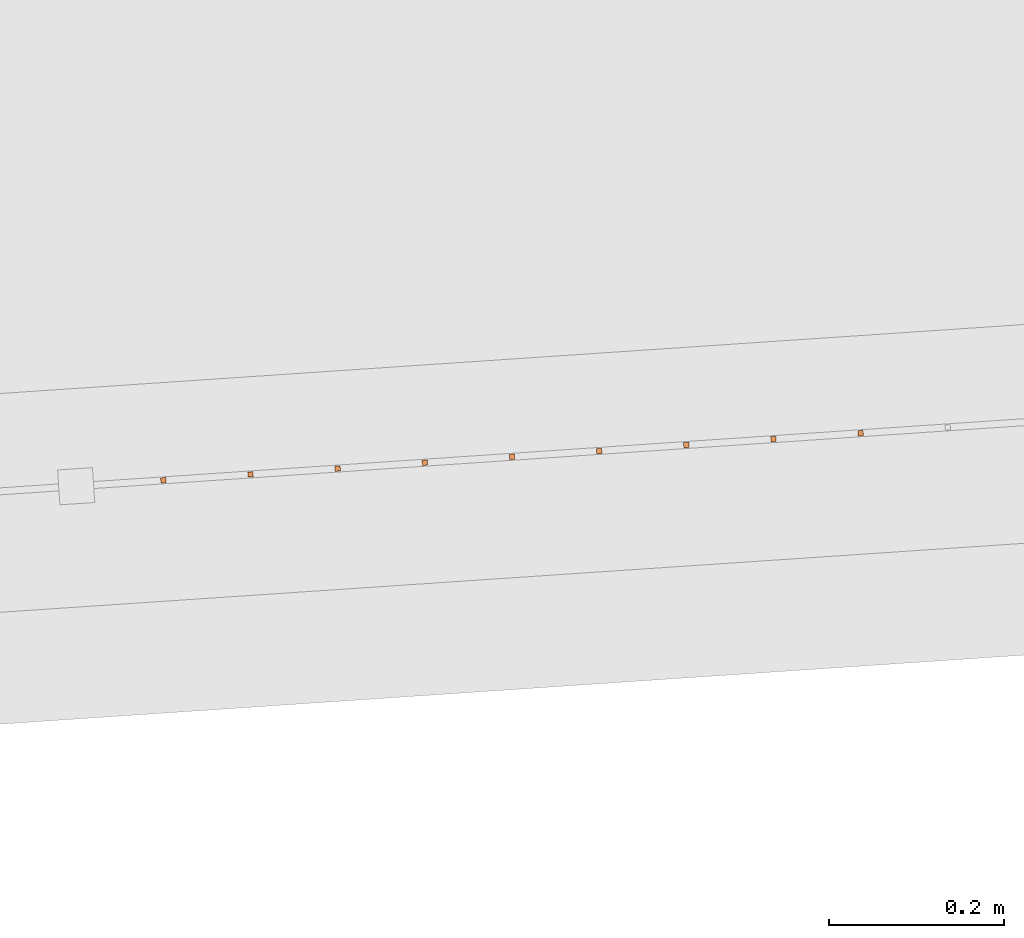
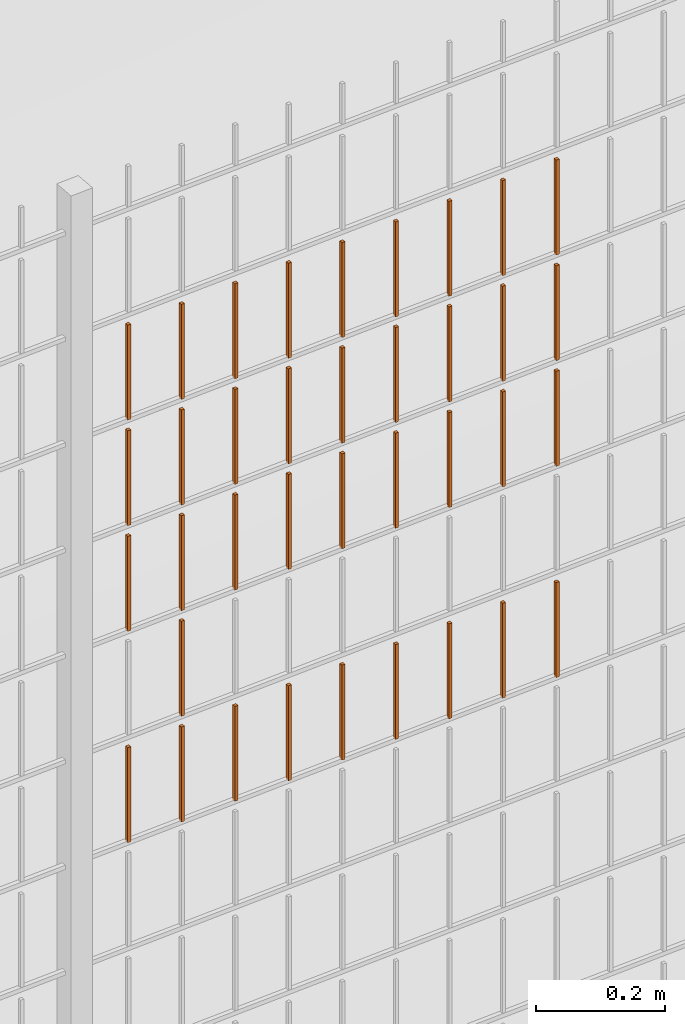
# One storey, part 182 of 1809: 37 proxies, 1 element without a shape of its own.
"""IFC2X3 building model written with IfcOpenShell, lengths in millimetres."""

from ifc_helpers import new_model, entity, si_unit, converted_unit, derived_unit, money_unit, direction, frame, origin_with_axes, place, context, subcontext, project, spatial, faceted_brep, source, transform, mapped, material, type_object, element, aggregate, save


model = new_model("IFC2X3")

# Units and contexts
model_context = context("Model", 3, precision=0.01, world=origin_with_axes(), true_north=direction((0.0, 1.0)))
body_context = subcontext(model_context, "Body", "Model", "MODEL_VIEW")
ifc_project = project(units=[si_unit("LENGTHUNIT", "METRE", prefix="MILLI"), si_unit("AREAUNIT", "SQUARE_METRE"), si_unit("VOLUMEUNIT", "CUBIC_METRE"), converted_unit("PLANEANGLEUNIT", "DEGREE", entity("IfcPlaneAngleMeasure", 0.0174532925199), si_unit("PLANEANGLEUNIT", "RADIAN"), dimensions=[0, 0, 0, 0, 0, 0, 0]), si_unit("SOLIDANGLEUNIT", "STERADIAN"), money_unit("EUR"), converted_unit("TIMEUNIT", "Year", entity("IfcTimeMeasure", 31556926.0), si_unit("TIMEUNIT", "SECOND"), dimensions=[0, 0, 1, 0, 0, 0, 0]), si_unit("MASSUNIT", "GRAM", prefix="KILO"), si_unit("THERMODYNAMICTEMPERATUREUNIT", "DEGREE_CELSIUS"), si_unit("LUMINOUSINTENSITYUNIT", "LUMEN"), si_unit("ENERGYUNIT", "JOULE", prefix="MEGA"), derived_unit("THERMALCONDUCTANCEUNIT", [(si_unit("POWERUNIT", "WATT"), 1), (si_unit("LENGTHUNIT", "METRE"), -1), (si_unit("THERMODYNAMICTEMPERATUREUNIT", "KELVIN"), -1)]), derived_unit("SPECIFICHEATCAPACITYUNIT", [(si_unit("ENERGYUNIT", "JOULE"), 1), (si_unit("MASSUNIT", "GRAM", prefix="KILO"), -1), (si_unit("THERMODYNAMICTEMPERATUREUNIT", "KELVIN"), -1)]), derived_unit("MASSDENSITYUNIT", [(si_unit("MASSUNIT", "GRAM", prefix="KILO"), 1), (si_unit("VOLUMEUNIT", "CUBIC_METRE"), -1)])], contexts=[model_context])

# Site, building, storey
site_placement = place(None, origin_with_axes())
site = spatial("IfcSite", under=ifc_project, at=site_placement, Name="Politse- ja Piirivalveameti ning Päästeameti ühishoone", CompositionType="ELEMENT")
building_placement = place(site_placement, origin_with_axes())
building = spatial("IfcBuilding", under=site, at=building_placement, Name="Politse- ja Piirivalveameti ning Päästeameti ühishoone", CompositionType="ELEMENT")
storey_placement = place(building_placement, origin_with_axes())
storey = spatial("IfcBuildingStorey", under=building, at=storey_placement, Name="Esimene korrus", CompositionType="ELEMENT", Elevation=0.0)

# Proxies
building_element_proxy_type_1 = type_object("IfcBuildingElementProxyType", Name="Railing Type", PredefinedType="NOTDEFINED")
proxy_1_placement = place(storey_placement, frame((89252.001212, -29183.4766571, 203.661247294), z_axis=(0.0, 0.0, 1.0), x_axis=(1.0, 0.0, 0.0)))
proxy_1 = element("IfcBuildingElementProxy", 1, at=proxy_1_placement, inside=storey, type_object=building_element_proxy_type_1, Name="PIIRDEAED")
ifc_material = material(Name="ET-03_Raud")
building_element_proxy_type_2 = type_object("IfcBuildingElementProxyType", Name="IfcBuildingElementProxy", PredefinedType="NOTDEFINED")
shared_shape_1 = source(origin_with_axes(), body_context, "Body", "Brep", [
    faceted_brep([(3.0, 3.0, -0.000752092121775), (-3.0, 3.0, -0.000752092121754), (-3.0, 3.0, 179.99926046), (3.0, 3.0, 179.99926046), (3.0, -3.0, 0.000752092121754), (-3.0, -3.0, 0.000752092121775), (-3.0, -3.0, 180.000764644), (3.0, -3.0, 180.000764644)], [[[0, 1, 2, 3]], [[0, 4, 5, 1]], [[1, 5, 6, 2]], [[3, 2, 6, 7]], [[4, 0, 3, 7]], [[5, 4, 7, 6]]]),
])
proxy_2_placement = place(proxy_1_placement, frame((-71962.710125, -22158.5842531, 809.152414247), z_axis=(0.0, 0.0, 1.0), x_axis=(1.0, 0.0, 0.0)))
proxy_2 = element("IfcBuildingElementProxy", 2, at=proxy_2_placement, type_object=building_element_proxy_type_2, material=ifc_material, Name="BALUSTER - 001", context=body_context, shape_type="MappedRepresentation", body=[
    mapped(shared_shape_1, transform((0.0, 0.0, 0.0), x_axis=(-0.0673926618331, 0.997726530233, 0.0), y_axis=(-0.997726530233, -0.0673926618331, 0.0), z_axis=(0.0, 0.0, 1.0))),
])
shared_shape_2 = source(origin_with_axes(), body_context, "Body", "Brep", [
    faceted_brep([(3.0, 3.0, -0.000752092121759), (-3.0, 3.0, -0.000752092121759), (-3.0, 3.0, 179.99926046), (3.0, 3.0, 179.99926046), (3.0, -3.0, 0.000752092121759), (-3.0, -3.0, 0.000752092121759), (-3.0, -3.0, 180.000764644), (3.0, -3.0, 180.000764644)], [[[0, 1, 2, 3]], [[0, 4, 5, 1]], [[1, 5, 6, 2]], [[3, 2, 6, 7]], [[4, 0, 3, 7]], [[5, 4, 7, 6]]]),
])
proxy_3_placement = place(proxy_1_placement, frame((-71364.0742069, -22118.148656, 809.302832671), z_axis=(0.0, 0.0, 1.0), x_axis=(1.0, 0.0, 0.0)))
proxy_3 = element("IfcBuildingElementProxy", 3, at=proxy_3_placement, type_object=building_element_proxy_type_2, material=ifc_material, Name="BALUSTER - 001", context=body_context, shape_type="MappedRepresentation", body=[
    mapped(shared_shape_2, transform((0.0, 0.0, 0.0), x_axis=(-0.0673926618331, 0.997726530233, 0.0), y_axis=(-0.997726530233, -0.0673926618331, 0.0), z_axis=(0.0, 0.0, 1.0))),
])
proxy_4_placement = place(proxy_1_placement, frame((-71463.8468599, -22124.8879222, 1209.27776293), z_axis=(0.0, 0.0, 1.0), x_axis=(1.0, 0.0, 0.0)))
proxy_4 = element("IfcBuildingElementProxy", 4, at=proxy_4_placement, type_object=building_element_proxy_type_2, material=ifc_material, Name="BALUSTER - 001", context=body_context, shape_type="MappedRepresentation", body=[
    mapped(shared_shape_2, transform((0.0, 0.0, 0.0), x_axis=(-0.0673926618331, 0.997726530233, 0.0), y_axis=(-0.997726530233, -0.0673926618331, 0.0), z_axis=(0.0, 0.0, 1.0))),
])
proxy_5_placement = place(proxy_1_placement, frame((-72062.482778, -22165.3235193, 1209.12734451), z_axis=(0.0, 0.0, 1.0), x_axis=(1.0, 0.0, 0.0)))
proxy_5 = element("IfcBuildingElementProxy", 5, at=proxy_5_placement, type_object=building_element_proxy_type_2, material=ifc_material, Name="BALUSTER - 001", context=body_context, shape_type="MappedRepresentation", body=[
    mapped(shared_shape_2, transform((0.0, 0.0, 0.0), x_axis=(-0.0673926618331, 0.997726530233, 0.0), y_axis=(-0.997726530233, -0.0673926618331, 0.0), z_axis=(0.0, 0.0, 1.0))),
])
shared_shape_3 = source(origin_with_axes(), body_context, "Body", "Brep", [
    faceted_brep([(3.0, 3.0, -0.000752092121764), (-3.0, 3.0, -0.000752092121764), (-3.0, 3.0, 179.99926046), (3.0, 3.0, 179.99926046), (3.0, -3.0, 0.000752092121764), (-3.0, -3.0, 0.000752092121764), (-3.0, -3.0, 180.000764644), (3.0, -3.0, 180.000764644)], [[[0, 1, 2, 3]], [[0, 4, 5, 1]], [[1, 5, 6, 2]], [[3, 2, 6, 7]], [[4, 0, 3, 7]], [[5, 4, 7, 6]]]),
])
proxy_6_placement = place(proxy_1_placement, frame((-72062.482778, -22165.3235193, 809.127344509), z_axis=(0.0, 0.0, 1.0), x_axis=(1.0, 0.0, 0.0)))
proxy_6 = element("IfcBuildingElementProxy", 6, at=proxy_6_placement, type_object=building_element_proxy_type_2, material=ifc_material, Name="BALUSTER - 001", context=body_context, shape_type="MappedRepresentation", body=[
    mapped(shared_shape_3, transform((0.0, 0.0, 0.0), x_axis=(-0.0673926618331, 0.997726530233, 0.0), y_axis=(-0.997726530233, -0.0673926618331, 0.0), z_axis=(0.0, 0.0, 1.0))),
])
shared_shape_4 = source(origin_with_axes(), body_context, "Body", "Brep", [
    faceted_brep([(3.0, 3.0, -0.000752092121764), (-3.0, 3.0, -0.000752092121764), (-3.0, 3.0, 179.99926046), (3.0, 3.0, 179.99926046), (3.0, -3.0, 0.000752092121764), (-3.0, -3.0, 0.000752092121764), (-3.0, -3.0, 180.000764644), (3.0, -3.0, 180.000764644)], [[[0, 1, 2, 3]], [[0, 4, 5, 1]], [[1, 5, 6, 2]], [[3, 2, 6, 7]], [[4, 0, 3, 7]], [[5, 4, 7, 6]]]),
])
proxy_7_placement = place(proxy_1_placement, frame((-71563.6195129, -22131.6271883, 1209.2526932), z_axis=(0.0, 0.0, 1.0), x_axis=(1.0, 0.0, 0.0)))
proxy_7 = element("IfcBuildingElementProxy", 7, at=proxy_7_placement, type_object=building_element_proxy_type_2, material=ifc_material, Name="BALUSTER - 001", context=body_context, shape_type="MappedRepresentation", body=[
    mapped(shared_shape_4, transform((0.0, 0.0, 0.0), x_axis=(-0.0673926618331, 0.997726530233, 0.0), y_axis=(-0.997726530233, -0.0673926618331, 0.0), z_axis=(0.0, 0.0, 1.0))),
])
shared_shape_5 = source(origin_with_axes(), body_context, "Body", "Brep", [
    faceted_brep([(3.0, 3.0, -0.000752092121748), (-3.0, 3.0, -0.00075209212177), (-3.0, 3.0, 179.99926046), (3.0, 3.0, 179.99926046), (3.0, -3.0, 0.00075209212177), (-3.0, -3.0, 0.000752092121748), (-3.0, -3.0, 180.000764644), (3.0, -3.0, 180.000764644)], [[[0, 1, 2, 3]], [[0, 4, 5, 1]], [[1, 5, 6, 2]], [[3, 2, 6, 7]], [[4, 0, 3, 7]], [[5, 4, 7, 6]]]),
])
proxy_8_placement = place(proxy_1_placement, frame((-71862.937472, -22151.8449869, 1209.17748398), z_axis=(0.0, 0.0, 1.0), x_axis=(1.0, 0.0, 0.0)))
proxy_8 = element("IfcBuildingElementProxy", 8, at=proxy_8_placement, type_object=building_element_proxy_type_2, material=ifc_material, Name="BALUSTER - 001", context=body_context, shape_type="MappedRepresentation", body=[
    mapped(shared_shape_5, transform((0.0, 0.0, 0.0), x_axis=(-0.0673926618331, 0.997726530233, 0.0), y_axis=(-0.997726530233, -0.0673926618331, 0.0), z_axis=(0.0, 0.0, 1.0))),
])
shared_shape_6 = source(origin_with_axes(), body_context, "Body", "Brep", [
    faceted_brep([(3.0, 3.0, -0.000752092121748), (-3.0, 3.0, -0.00075209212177), (-3.0, 3.0, 179.99926046), (3.0, 3.0, 179.99926046), (3.0, -3.0, 0.00075209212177), (-3.0, -3.0, 0.000752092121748), (-3.0, -3.0, 180.000764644), (3.0, -3.0, 180.000764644)], [[[0, 1, 2, 3]], [[0, 4, 5, 1]], [[1, 5, 6, 2]], [[3, 2, 6, 7]], [[4, 0, 3, 7]], [[5, 4, 7, 6]]]),
])
proxy_9_placement = place(proxy_1_placement, frame((-71264.3015538, -22111.4093898, 1209.32790241), z_axis=(0.0, 0.0, 1.0), x_axis=(1.0, 0.0, 0.0)))
proxy_9 = element("IfcBuildingElementProxy", 9, at=proxy_9_placement, type_object=building_element_proxy_type_2, material=ifc_material, Name="BALUSTER - 001", context=body_context, shape_type="MappedRepresentation", body=[
    mapped(shared_shape_6, transform((0.0, 0.0, 0.0), x_axis=(-0.0673926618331, 0.997726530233, 0.0), y_axis=(-0.997726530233, -0.0673926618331, 0.0), z_axis=(0.0, 0.0, 1.0))),
])
shared_shape_7 = source(origin_with_axes(), body_context, "Body", "Brep", [
    faceted_brep([(3.0, 3.0, -0.000752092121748), (-3.0, 3.0, -0.00075209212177), (-3.0, 3.0, 179.99926046), (3.0, 3.0, 179.99926046), (3.0, -3.0, 0.00075209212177), (-3.0, -3.0, 0.000752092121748), (-3.0, -3.0, 180.000764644), (3.0, -3.0, 180.000764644)], [[[0, 1, 2, 3]], [[0, 4, 5, 1]], [[1, 5, 6, 2]], [[3, 2, 6, 7]], [[4, 0, 3, 7]], [[5, 4, 7, 6]]]),
])
proxy_10_placement = place(proxy_1_placement, frame((-71264.3015538, -22111.4093898, 1409.32790241), z_axis=(0.0, 0.0, 1.0), x_axis=(1.0, 0.0, 0.0)))
proxy_10 = element("IfcBuildingElementProxy", 10, at=proxy_10_placement, type_object=building_element_proxy_type_2, material=ifc_material, Name="BALUSTER - 001", context=body_context, shape_type="MappedRepresentation", body=[
    mapped(shared_shape_7, transform((0.0, 0.0, 0.0), x_axis=(-0.0673926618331, 0.997726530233, 0.0), y_axis=(-0.997726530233, -0.0673926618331, 0.0), z_axis=(0.0, 0.0, 1.0))),
])
proxy_11_placement = place(proxy_1_placement, frame((-71264.3015538, -22111.4093898, 1609.32790241), z_axis=(0.0, 0.0, 1.0), x_axis=(1.0, 0.0, 0.0)))
proxy_11 = element("IfcBuildingElementProxy", 11, at=proxy_11_placement, type_object=building_element_proxy_type_2, material=ifc_material, Name="BALUSTER - 001", context=body_context, shape_type="MappedRepresentation", body=[
    mapped(shared_shape_7, transform((0.0, 0.0, 0.0), x_axis=(-0.0673926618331, 0.997726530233, 0.0), y_axis=(-0.997726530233, -0.0673926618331, 0.0), z_axis=(0.0, 0.0, 1.0))),
])
shared_shape_8 = source(origin_with_axes(), body_context, "Body", "Brep", [
    faceted_brep([(3.0, 3.0, -0.000752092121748), (-3.0, 3.0, -0.00075209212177), (-3.0, 3.0, 179.99926046), (3.0, 3.0, 179.99926046), (3.0, -3.0, 0.00075209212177), (-3.0, -3.0, 0.000752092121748), (-3.0, -3.0, 180.000764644), (3.0, -3.0, 180.000764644)], [[[0, 1, 2, 3]], [[0, 4, 5, 1]], [[1, 5, 6, 2]], [[3, 2, 6, 7]], [[4, 0, 3, 7]], [[5, 4, 7, 6]]]),
])
proxy_12_placement = place(proxy_1_placement, frame((-71862.937472, -22151.8449869, 1409.17748398), z_axis=(0.0, 0.0, 1.0), x_axis=(1.0, 0.0, 0.0)))
proxy_12 = element("IfcBuildingElementProxy", 12, at=proxy_12_placement, type_object=building_element_proxy_type_2, material=ifc_material, Name="BALUSTER - 001", context=body_context, shape_type="MappedRepresentation", body=[
    mapped(shared_shape_8, transform((0.0, 0.0, 0.0), x_axis=(-0.0673926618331, 0.997726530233, 0.0), y_axis=(-0.997726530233, -0.0673926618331, 0.0), z_axis=(0.0, 0.0, 1.0))),
])
proxy_13_placement = place(proxy_1_placement, frame((-71862.937472, -22151.8449869, 1609.17748398), z_axis=(0.0, 0.0, 1.0), x_axis=(1.0, 0.0, 0.0)))
proxy_13 = element("IfcBuildingElementProxy", 13, at=proxy_13_placement, type_object=building_element_proxy_type_2, material=ifc_material, Name="BALUSTER - 001", context=body_context, shape_type="MappedRepresentation", body=[
    mapped(shared_shape_8, transform((0.0, 0.0, 0.0), x_axis=(-0.0673926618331, 0.997726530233, 0.0), y_axis=(-0.997726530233, -0.0673926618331, 0.0), z_axis=(0.0, 0.0, 1.0))),
])
shared_shape_9 = source(origin_with_axes(), body_context, "Body", "Brep", [
    faceted_brep([(3.0, 3.0, -0.000752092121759), (-3.0, 3.0, -0.000752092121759), (-3.0, 3.0, 179.99926046), (3.0, 3.0, 179.99926046), (3.0, -3.0, 0.000752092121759), (-3.0, -3.0, 0.000752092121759), (-3.0, -3.0, 180.000764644), (3.0, -3.0, 180.000764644)], [[[0, 1, 2, 3]], [[0, 4, 5, 1]], [[1, 5, 6, 2]], [[3, 2, 6, 7]], [[4, 0, 3, 7]], [[5, 4, 7, 6]]]),
])
proxy_14_placement = place(proxy_1_placement, frame((-71463.8468599, -22124.8879222, 1409.27776293), z_axis=(0.0, 0.0, 1.0), x_axis=(1.0, 0.0, 0.0)))
proxy_14 = element("IfcBuildingElementProxy", 14, at=proxy_14_placement, type_object=building_element_proxy_type_2, material=ifc_material, Name="BALUSTER - 001", context=body_context, shape_type="MappedRepresentation", body=[
    mapped(shared_shape_9, transform((0.0, 0.0, 0.0), x_axis=(-0.0673926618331, 0.997726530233, 0.0), y_axis=(-0.997726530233, -0.0673926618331, 0.0), z_axis=(0.0, 0.0, 1.0))),
])
proxy_15_placement = place(proxy_1_placement, frame((-72062.482778, -22165.3235193, 1409.12734451), z_axis=(0.0, 0.0, 1.0), x_axis=(1.0, 0.0, 0.0)))
proxy_15 = element("IfcBuildingElementProxy", 15, at=proxy_15_placement, type_object=building_element_proxy_type_2, material=ifc_material, Name="BALUSTER - 001", context=body_context, shape_type="MappedRepresentation", body=[
    mapped(shared_shape_9, transform((0.0, 0.0, 0.0), x_axis=(-0.0673926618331, 0.997726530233, 0.0), y_axis=(-0.997726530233, -0.0673926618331, 0.0), z_axis=(0.0, 0.0, 1.0))),
])
proxy_16_placement = place(proxy_1_placement, frame((-71463.8468599, -22124.8879222, 1609.27776293), z_axis=(0.0, 0.0, 1.0), x_axis=(1.0, 0.0, 0.0)))
proxy_16 = element("IfcBuildingElementProxy", 16, at=proxy_16_placement, type_object=building_element_proxy_type_2, material=ifc_material, Name="BALUSTER - 001", context=body_context, shape_type="MappedRepresentation", body=[
    mapped(shared_shape_9, transform((0.0, 0.0, 0.0), x_axis=(-0.0673926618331, 0.997726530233, 0.0), y_axis=(-0.997726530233, -0.0673926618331, 0.0), z_axis=(0.0, 0.0, 1.0))),
])
proxy_17_placement = place(proxy_1_placement, frame((-72062.482778, -22165.3235193, 1609.12734451), z_axis=(0.0, 0.0, 1.0), x_axis=(1.0, 0.0, 0.0)))
proxy_17 = element("IfcBuildingElementProxy", 17, at=proxy_17_placement, type_object=building_element_proxy_type_2, material=ifc_material, Name="BALUSTER - 001", context=body_context, shape_type="MappedRepresentation", body=[
    mapped(shared_shape_9, transform((0.0, 0.0, 0.0), x_axis=(-0.0673926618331, 0.997726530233, 0.0), y_axis=(-0.997726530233, -0.0673926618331, 0.0), z_axis=(0.0, 0.0, 1.0))),
])
shared_shape_10 = source(origin_with_axes(), body_context, "Body", "Brep", [
    faceted_brep([(3.0, 3.0, -0.000752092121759), (-3.0, 3.0, -0.000752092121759), (-3.0, 3.0, 179.99926046), (3.0, 3.0, 179.99926046), (3.0, -3.0, 0.000752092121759), (-3.0, -3.0, 0.000752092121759), (-3.0, -3.0, 180.000764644), (3.0, -3.0, 180.000764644)], [[[0, 1, 2, 3]], [[0, 4, 5, 1]], [[1, 5, 6, 2]], [[3, 2, 6, 7]], [[4, 0, 3, 7]], [[5, 4, 7, 6]]]),
])
proxy_18_placement = place(proxy_1_placement, frame((-71663.3921659, -22138.3664545, 1209.22762346), z_axis=(0.0, 0.0, 1.0), x_axis=(1.0, 0.0, 0.0)))
proxy_18 = element("IfcBuildingElementProxy", 18, at=proxy_18_placement, type_object=building_element_proxy_type_2, material=ifc_material, Name="BALUSTER - 001", context=body_context, shape_type="MappedRepresentation", body=[
    mapped(shared_shape_10, transform((0.0, 0.0, 0.0), x_axis=(-0.0673926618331, 0.997726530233, 0.0), y_axis=(-0.997726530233, -0.0673926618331, 0.0), z_axis=(0.0, 0.0, 1.0))),
])
shared_shape_11 = source(origin_with_axes(), body_context, "Body", "Brep", [
    faceted_brep([(3.0, 3.0, -0.000752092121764), (-3.0, 3.0, -0.000752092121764), (-3.0, 3.0, 179.99926046), (3.0, 3.0, 179.99926046), (3.0, -3.0, 0.000752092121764), (-3.0, -3.0, 0.000752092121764), (-3.0, -3.0, 180.000764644), (3.0, -3.0, 180.000764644)], [[[0, 1, 2, 3]], [[0, 4, 5, 1]], [[1, 5, 6, 2]], [[3, 2, 6, 7]], [[4, 0, 3, 7]], [[5, 4, 7, 6]]]),
])
proxy_19_placement = place(proxy_1_placement, frame((-71962.710125, -22158.5842531, 1209.15241425), z_axis=(0.0, 0.0, 1.0), x_axis=(1.0, 0.0, 0.0)))
proxy_19 = element("IfcBuildingElementProxy", 19, at=proxy_19_placement, type_object=building_element_proxy_type_2, material=ifc_material, Name="BALUSTER - 001", context=body_context, shape_type="MappedRepresentation", body=[
    mapped(shared_shape_11, transform((0.0, 0.0, 0.0), x_axis=(-0.0673926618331, 0.997726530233, 0.0), y_axis=(-0.997726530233, -0.0673926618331, 0.0), z_axis=(0.0, 0.0, 1.0))),
])
shared_shape_12 = source(origin_with_axes(), body_context, "Body", "Brep", [
    faceted_brep([(3.0, 3.0, -0.000752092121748), (-3.0, 3.0, -0.00075209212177), (-3.0, 3.0, 179.99926046), (3.0, 3.0, 179.99926046), (3.0, -3.0, 0.00075209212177), (-3.0, -3.0, 0.000752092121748), (-3.0, -3.0, 180.000764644), (3.0, -3.0, 180.000764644)], [[[0, 1, 2, 3]], [[0, 4, 5, 1]], [[1, 5, 6, 2]], [[3, 2, 6, 7]], [[4, 0, 3, 7]], [[5, 4, 7, 6]]]),
])
proxy_20_placement = place(proxy_1_placement, frame((-71862.937472, -22151.8449869, 809.177483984), z_axis=(0.0, 0.0, 1.0), x_axis=(1.0, 0.0, 0.0)))
proxy_20 = element("IfcBuildingElementProxy", 20, at=proxy_20_placement, type_object=building_element_proxy_type_2, material=ifc_material, Name="BALUSTER - 001", context=body_context, shape_type="MappedRepresentation", body=[
    mapped(shared_shape_12, transform((0.0, 0.0, 0.0), x_axis=(-0.0673926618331, 0.997726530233, 0.0), y_axis=(-0.997726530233, -0.0673926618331, 0.0), z_axis=(0.0, 0.0, 1.0))),
])
proxy_21_placement = place(proxy_1_placement, frame((-71763.1648189, -22145.1057207, 1209.20255372), z_axis=(0.0, 0.0, 1.0), x_axis=(1.0, 0.0, 0.0)))
proxy_21 = element("IfcBuildingElementProxy", 21, at=proxy_21_placement, type_object=building_element_proxy_type_2, material=ifc_material, Name="BALUSTER - 001", context=body_context, shape_type="MappedRepresentation", body=[
    mapped(shared_shape_12, transform((0.0, 0.0, 0.0), x_axis=(-0.0673926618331, 0.997726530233, 0.0), y_axis=(-0.997726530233, -0.0673926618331, 0.0), z_axis=(0.0, 0.0, 1.0))),
])
shared_shape_13 = source(origin_with_axes(), body_context, "Body", "Brep", [
    faceted_brep([(3.0, 3.0, -0.000752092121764), (-3.0, 3.0, -0.000752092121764), (-3.0, 3.0, 179.99926046), (3.0, 3.0, 179.99926046), (3.0, -3.0, 0.000752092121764), (-3.0, -3.0, 0.000752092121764), (-3.0, -3.0, 180.000764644), (3.0, -3.0, 180.000764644)], [[[0, 1, 2, 3]], [[0, 4, 5, 1]], [[1, 5, 6, 2]], [[3, 2, 6, 7]], [[4, 0, 3, 7]], [[5, 4, 7, 6]]]),
])
proxy_22_placement = place(proxy_1_placement, frame((-71463.8468599, -22124.8879222, 809.277762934), z_axis=(0.0, 0.0, 1.0), x_axis=(1.0, 0.0, 0.0)))
proxy_22 = element("IfcBuildingElementProxy", 22, at=proxy_22_placement, type_object=building_element_proxy_type_2, material=ifc_material, Name="BALUSTER - 001", context=body_context, shape_type="MappedRepresentation", body=[
    mapped(shared_shape_13, transform((0.0, 0.0, 0.0), x_axis=(-0.0673926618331, 0.997726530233, 0.0), y_axis=(-0.997726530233, -0.0673926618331, 0.0), z_axis=(0.0, 0.0, 1.0))),
])
shared_shape_14 = source(origin_with_axes(), body_context, "Body", "Brep", [
    faceted_brep([(3.0, 3.0, -0.000752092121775), (-3.0, 3.0, -0.000752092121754), (-3.0, 3.0, 179.99926046), (3.0, 3.0, 179.99926046), (3.0, -3.0, 0.000752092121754), (-3.0, -3.0, 0.000752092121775), (-3.0, -3.0, 180.000764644), (3.0, -3.0, 180.000764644)], [[[0, 1, 2, 3]], [[0, 4, 5, 1]], [[1, 5, 6, 2]], [[3, 2, 6, 7]], [[4, 0, 3, 7]], [[5, 4, 7, 6]]]),
])
proxy_23_placement = place(proxy_1_placement, frame((-71364.0742069, -22118.148656, 1209.30283267), z_axis=(0.0, 0.0, 1.0), x_axis=(1.0, 0.0, 0.0)))
proxy_23 = element("IfcBuildingElementProxy", 23, at=proxy_23_placement, type_object=building_element_proxy_type_2, material=ifc_material, Name="BALUSTER - 001", context=body_context, shape_type="MappedRepresentation", body=[
    mapped(shared_shape_14, transform((0.0, 0.0, 0.0), x_axis=(-0.0673926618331, 0.997726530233, 0.0), y_axis=(-0.997726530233, -0.0673926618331, 0.0), z_axis=(0.0, 0.0, 1.0))),
])
shared_shape_15 = source(origin_with_axes(), body_context, "Body", "Brep", [
    faceted_brep([(3.0, 3.0, -0.000752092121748), (-3.0, 3.0, -0.00075209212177), (-3.0, 3.0, 179.99926046), (3.0, 3.0, 179.99926046), (3.0, -3.0, 0.00075209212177), (-3.0, -3.0, 0.000752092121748), (-3.0, -3.0, 180.000764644), (3.0, -3.0, 180.000764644)], [[[0, 1, 2, 3]], [[0, 4, 5, 1]], [[1, 5, 6, 2]], [[3, 2, 6, 7]], [[4, 0, 3, 7]], [[5, 4, 7, 6]]]),
])
proxy_24_placement = place(proxy_1_placement, frame((-71663.3921659, -22138.3664545, 809.227623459), z_axis=(0.0, 0.0, 1.0), x_axis=(1.0, 0.0, 0.0)))
proxy_24 = element("IfcBuildingElementProxy", 24, at=proxy_24_placement, type_object=building_element_proxy_type_2, material=ifc_material, Name="BALUSTER - 001", context=body_context, shape_type="MappedRepresentation", body=[
    mapped(shared_shape_15, transform((0.0, 0.0, 0.0), x_axis=(-0.0673926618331, 0.997726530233, 0.0), y_axis=(-0.997726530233, -0.0673926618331, 0.0), z_axis=(0.0, 0.0, 1.0))),
])
shared_shape_16 = source(origin_with_axes(), body_context, "Body", "Brep", [
    faceted_brep([(3.0, 3.0, -0.000752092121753), (-3.0, 3.0, -0.000752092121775), (-3.0, 3.0, 179.99926046), (3.0, 3.0, 179.99926046), (3.0, -3.0, 0.000752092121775), (-3.0, -3.0, 0.000752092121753), (-3.0, -3.0, 180.000764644), (3.0, -3.0, 180.000764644)], [[[0, 1, 2, 3]], [[0, 4, 5, 1]], [[1, 5, 6, 2]], [[3, 2, 6, 7]], [[4, 0, 3, 7]], [[5, 4, 7, 6]]]),
])
proxy_25_placement = place(proxy_1_placement, frame((-71763.1648189, -22145.1057207, 809.202553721), z_axis=(0.0, 0.0, 1.0), x_axis=(1.0, 0.0, 0.0)))
proxy_25 = element("IfcBuildingElementProxy", 25, at=proxy_25_placement, type_object=building_element_proxy_type_2, material=ifc_material, Name="BALUSTER - 001", context=body_context, shape_type="MappedRepresentation", body=[
    mapped(shared_shape_16, transform((0.0, 0.0, 0.0), x_axis=(-0.0673926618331, 0.997726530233, 0.0), y_axis=(-0.997726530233, -0.0673926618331, 0.0), z_axis=(0.0, 0.0, 1.0))),
])
shared_shape_17 = source(origin_with_axes(), body_context, "Body", "Brep", [
    faceted_brep([(3.0, 3.0, -0.000752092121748), (-3.0, 3.0, -0.00075209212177), (-3.0, 3.0, 179.99926046), (3.0, 3.0, 179.99926046), (3.0, -3.0, 0.00075209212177), (-3.0, -3.0, 0.000752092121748), (-3.0, -3.0, 180.000764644), (3.0, -3.0, 180.000764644)], [[[0, 1, 2, 3]], [[0, 4, 5, 1]], [[1, 5, 6, 2]], [[3, 2, 6, 7]], [[4, 0, 3, 7]], [[5, 4, 7, 6]]]),
])
proxy_26_placement = place(proxy_1_placement, frame((-71763.1648189, -22145.1057207, 1409.20255372), z_axis=(0.0, 0.0, 1.0), x_axis=(1.0, 0.0, 0.0)))
proxy_26 = element("IfcBuildingElementProxy", 26, at=proxy_26_placement, type_object=building_element_proxy_type_2, material=ifc_material, Name="BALUSTER - 001", context=body_context, shape_type="MappedRepresentation", body=[
    mapped(shared_shape_17, transform((0.0, 0.0, 0.0), x_axis=(-0.0673926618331, 0.997726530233, 0.0), y_axis=(-0.997726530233, -0.0673926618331, 0.0), z_axis=(0.0, 0.0, 1.0))),
])
proxy_27_placement = place(proxy_1_placement, frame((-71763.1648189, -22145.1057207, 1609.20255372), z_axis=(0.0, 0.0, 1.0), x_axis=(1.0, 0.0, 0.0)))
proxy_27 = element("IfcBuildingElementProxy", 27, at=proxy_27_placement, type_object=building_element_proxy_type_2, material=ifc_material, Name="BALUSTER - 001", context=body_context, shape_type="MappedRepresentation", body=[
    mapped(shared_shape_17, transform((0.0, 0.0, 0.0), x_axis=(-0.0673926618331, 0.997726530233, 0.0), y_axis=(-0.997726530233, -0.0673926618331, 0.0), z_axis=(0.0, 0.0, 1.0))),
])
shared_shape_18 = source(origin_with_axes(), body_context, "Body", "Brep", [
    faceted_brep([(3.0, 3.0, -0.000752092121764), (-3.0, 3.0, -0.000752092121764), (-3.0, 3.0, 179.99926046), (3.0, 3.0, 179.99926046), (3.0, -3.0, 0.000752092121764), (-3.0, -3.0, 0.000752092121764), (-3.0, -3.0, 180.000764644), (3.0, -3.0, 180.000764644)], [[[0, 1, 2, 3]], [[0, 4, 5, 1]], [[1, 5, 6, 2]], [[3, 2, 6, 7]], [[4, 0, 3, 7]], [[5, 4, 7, 6]]]),
])
proxy_28_placement = place(proxy_1_placement, frame((-71962.710125, -22158.5842531, 1409.15241425), z_axis=(0.0, 0.0, 1.0), x_axis=(1.0, 0.0, 0.0)))
proxy_28 = element("IfcBuildingElementProxy", 28, at=proxy_28_placement, type_object=building_element_proxy_type_2, material=ifc_material, Name="BALUSTER - 001", context=body_context, shape_type="MappedRepresentation", body=[
    mapped(shared_shape_18, transform((0.0, 0.0, 0.0), x_axis=(-0.0673926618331, 0.997726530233, 0.0), y_axis=(-0.997726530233, -0.0673926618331, 0.0), z_axis=(0.0, 0.0, 1.0))),
])
proxy_29_placement = place(proxy_1_placement, frame((-71962.710125, -22158.5842531, 1609.15241425), z_axis=(0.0, 0.0, 1.0), x_axis=(1.0, 0.0, 0.0)))
proxy_29 = element("IfcBuildingElementProxy", 29, at=proxy_29_placement, type_object=building_element_proxy_type_2, material=ifc_material, Name="BALUSTER - 001", context=body_context, shape_type="MappedRepresentation", body=[
    mapped(shared_shape_18, transform((0.0, 0.0, 0.0), x_axis=(-0.0673926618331, 0.997726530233, 0.0), y_axis=(-0.997726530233, -0.0673926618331, 0.0), z_axis=(0.0, 0.0, 1.0))),
])
shared_shape_19 = source(origin_with_axes(), body_context, "Body", "Brep", [
    faceted_brep([(3.0, 3.0, -0.000752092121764), (-3.0, 3.0, -0.000752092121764), (-3.0, 3.0, 179.99926046), (3.0, 3.0, 179.99926046), (3.0, -3.0, 0.000752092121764), (-3.0, -3.0, 0.000752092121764), (-3.0, -3.0, 180.000764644), (3.0, -3.0, 180.000764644)], [[[0, 1, 2, 3]], [[0, 4, 5, 1]], [[1, 5, 6, 2]], [[3, 2, 6, 7]], [[4, 0, 3, 7]], [[5, 4, 7, 6]]]),
])
proxy_30_placement = place(proxy_1_placement, frame((-71563.6195129, -22131.6271883, 1409.2526932), z_axis=(0.0, 0.0, 1.0), x_axis=(1.0, 0.0, 0.0)))
proxy_30 = element("IfcBuildingElementProxy", 30, at=proxy_30_placement, type_object=building_element_proxy_type_2, material=ifc_material, Name="BALUSTER - 001", context=body_context, shape_type="MappedRepresentation", body=[
    mapped(shared_shape_19, transform((0.0, 0.0, 0.0), x_axis=(-0.0673926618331, 0.997726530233, 0.0), y_axis=(-0.997726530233, -0.0673926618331, 0.0), z_axis=(0.0, 0.0, 1.0))),
])
proxy_31_placement = place(proxy_1_placement, frame((-71563.6195129, -22131.6271883, 1609.2526932), z_axis=(0.0, 0.0, 1.0), x_axis=(1.0, 0.0, 0.0)))
proxy_31 = element("IfcBuildingElementProxy", 31, at=proxy_31_placement, type_object=building_element_proxy_type_2, material=ifc_material, Name="BALUSTER - 001", context=body_context, shape_type="MappedRepresentation", body=[
    mapped(shared_shape_19, transform((0.0, 0.0, 0.0), x_axis=(-0.0673926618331, 0.997726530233, 0.0), y_axis=(-0.997726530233, -0.0673926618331, 0.0), z_axis=(0.0, 0.0, 1.0))),
])
shared_shape_20 = source(origin_with_axes(), body_context, "Body", "Brep", [
    faceted_brep([(3.0, 3.0, -0.000752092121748), (-3.0, 3.0, -0.00075209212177), (-3.0, 3.0, 179.99926046), (3.0, 3.0, 179.99926046), (3.0, -3.0, 0.00075209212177), (-3.0, -3.0, 0.000752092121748), (-3.0, -3.0, 180.000764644), (3.0, -3.0, 180.000764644)], [[[0, 1, 2, 3]], [[0, 4, 5, 1]], [[1, 5, 6, 2]], [[3, 2, 6, 7]], [[4, 0, 3, 7]], [[5, 4, 7, 6]]]),
])
proxy_32_placement = place(proxy_1_placement, frame((-71264.3015538, -22111.4093898, 809.327902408), z_axis=(0.0, 0.0, 1.0), x_axis=(1.0, 0.0, 0.0)))
proxy_32 = element("IfcBuildingElementProxy", 32, at=proxy_32_placement, type_object=building_element_proxy_type_2, material=ifc_material, Name="BALUSTER - 001", context=body_context, shape_type="MappedRepresentation", body=[
    mapped(shared_shape_20, transform((0.0, 0.0, 0.0), x_axis=(-0.0673926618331, 0.997726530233, 0.0), y_axis=(-0.997726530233, -0.0673926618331, 0.0), z_axis=(0.0, 0.0, 1.0))),
])
shared_shape_21 = source(origin_with_axes(), body_context, "Body", "Brep", [
    faceted_brep([(3.0, 3.0, -0.000752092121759), (-3.0, 3.0, -0.000752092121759), (-3.0, 3.0, 179.99926046), (3.0, 3.0, 179.99926046), (3.0, -3.0, 0.000752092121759), (-3.0, -3.0, 0.000752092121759), (-3.0, -3.0, 180.000764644), (3.0, -3.0, 180.000764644)], [[[0, 1, 2, 3]], [[0, 4, 5, 1]], [[1, 5, 6, 2]], [[3, 2, 6, 7]], [[4, 0, 3, 7]], [[5, 4, 7, 6]]]),
])
proxy_33_placement = place(proxy_1_placement, frame((-71663.3921659, -22138.3664545, 1409.22762346), z_axis=(0.0, 0.0, 1.0), x_axis=(1.0, 0.0, 0.0)))
proxy_33 = element("IfcBuildingElementProxy", 33, at=proxy_33_placement, type_object=building_element_proxy_type_2, material=ifc_material, Name="BALUSTER - 001", context=body_context, shape_type="MappedRepresentation", body=[
    mapped(shared_shape_21, transform((0.0, 0.0, 0.0), x_axis=(-0.0673926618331, 0.997726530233, 0.0), y_axis=(-0.997726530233, -0.0673926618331, 0.0), z_axis=(0.0, 0.0, 1.0))),
])
proxy_34_placement = place(proxy_1_placement, frame((-71663.3921659, -22138.3664545, 1609.22762346), z_axis=(0.0, 0.0, 1.0), x_axis=(1.0, 0.0, 0.0)))
proxy_34 = element("IfcBuildingElementProxy", 34, at=proxy_34_placement, type_object=building_element_proxy_type_2, material=ifc_material, Name="BALUSTER - 001", context=body_context, shape_type="MappedRepresentation", body=[
    mapped(shared_shape_21, transform((0.0, 0.0, 0.0), x_axis=(-0.0673926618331, 0.997726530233, 0.0), y_axis=(-0.997726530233, -0.0673926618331, 0.0), z_axis=(0.0, 0.0, 1.0))),
])
shared_shape_22 = source(origin_with_axes(), body_context, "Body", "Brep", [
    faceted_brep([(3.0, 3.0, -0.000752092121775), (-3.0, 3.0, -0.000752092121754), (-3.0, 3.0, 179.99926046), (3.0, 3.0, 179.99926046), (3.0, -3.0, 0.000752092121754), (-3.0, -3.0, 0.000752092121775), (-3.0, -3.0, 180.000764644), (3.0, -3.0, 180.000764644)], [[[0, 1, 2, 3]], [[0, 4, 5, 1]], [[1, 5, 6, 2]], [[3, 2, 6, 7]], [[4, 0, 3, 7]], [[5, 4, 7, 6]]]),
])
proxy_35_placement = place(proxy_1_placement, frame((-71364.0742069, -22118.148656, 1409.30283267), z_axis=(0.0, 0.0, 1.0), x_axis=(1.0, 0.0, 0.0)))
proxy_35 = element("IfcBuildingElementProxy", 35, at=proxy_35_placement, type_object=building_element_proxy_type_2, material=ifc_material, Name="BALUSTER - 001", context=body_context, shape_type="MappedRepresentation", body=[
    mapped(shared_shape_22, transform((0.0, 0.0, 0.0), x_axis=(-0.0673926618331, 0.997726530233, 0.0), y_axis=(-0.997726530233, -0.0673926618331, 0.0), z_axis=(0.0, 0.0, 1.0))),
])
proxy_36_placement = place(proxy_1_placement, frame((-71364.0742069, -22118.148656, 1609.30283267), z_axis=(0.0, 0.0, 1.0), x_axis=(1.0, 0.0, 0.0)))
proxy_36 = element("IfcBuildingElementProxy", 36, at=proxy_36_placement, type_object=building_element_proxy_type_2, material=ifc_material, Name="BALUSTER - 001", context=body_context, shape_type="MappedRepresentation", body=[
    mapped(shared_shape_22, transform((0.0, 0.0, 0.0), x_axis=(-0.0673926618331, 0.997726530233, 0.0), y_axis=(-0.997726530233, -0.0673926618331, 0.0), z_axis=(0.0, 0.0, 1.0))),
])
shared_shape_23 = source(origin_with_axes(), body_context, "Body", "Brep", [
    faceted_brep([(3.0, 3.0, -0.000752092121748), (-3.0, 3.0, -0.00075209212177), (-3.0, 3.0, 179.99926046), (3.0, 3.0, 179.99926046), (3.0, -3.0, 0.00075209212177), (-3.0, -3.0, 0.000752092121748), (-3.0, -3.0, 180.000764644), (3.0, -3.0, 180.000764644)], [[[0, 1, 2, 3]], [[0, 4, 5, 1]], [[1, 5, 6, 2]], [[3, 2, 6, 7]], [[4, 0, 3, 7]], [[5, 4, 7, 6]]]),
])
proxy_37_placement = place(proxy_1_placement, frame((-71563.6195129, -22131.6271883, 809.252693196), z_axis=(0.0, 0.0, 1.0), x_axis=(1.0, 0.0, 0.0)))
proxy_37 = element("IfcBuildingElementProxy", 37, at=proxy_37_placement, type_object=building_element_proxy_type_2, material=ifc_material, Name="BALUSTER - 001", context=body_context, shape_type="MappedRepresentation", body=[
    mapped(shared_shape_23, transform((0.0, 0.0, 0.0), x_axis=(-0.0673926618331, 0.997726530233, 0.0), y_axis=(-0.997726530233, -0.0673926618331, 0.0), z_axis=(0.0, 0.0, 1.0))),
])
shared_shape_24 = source(origin_with_axes(), body_context, "Body", "Brep", [
    faceted_brep([(3.0, 3.0, -0.0007520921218), (-3.0, 3.0, -0.000752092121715), (-3.0, 3.00000000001, 179.99926046), (3.0, 3.00000000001, 179.99926046), (3.0, -3.0, 0.000752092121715), (-3.0, -3.0, 0.0007520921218), (-3.0, -2.99999999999, 180.000764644), (3.0, -2.99999999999, 180.000764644)], [[[0, 1, 2, 3]], [[0, 4, 5, 1]], [[1, 5, 6, 2]], [[3, 2, 6, 7]], [[4, 0, 3, 7]], [[5, 4, 7, 6]]]),
])
proxy_38_placement = place(proxy_1_placement, frame((-71962.710125, -22158.5842531, 1009.15241425), z_axis=(0.0, 0.0, 1.0), x_axis=(1.0, 0.0, 0.0)))
proxy_38 = element("IfcBuildingElementProxy", 38, at=proxy_38_placement, type_object=building_element_proxy_type_2, material=ifc_material, Name="BALUSTER - 001", context=body_context, shape_type="MappedRepresentation", body=[
    mapped(shared_shape_24, transform((0.0, 0.0, 0.0), x_axis=(-0.0673926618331, 0.997726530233, 0.0), y_axis=(-0.997726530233, -0.0673926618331, 0.0), z_axis=(0.0, 0.0, 1.0))),
])
aggregate(proxy_1, [proxy_32, proxy_3, proxy_22, proxy_37, proxy_24, proxy_25, proxy_20, proxy_2, proxy_6, proxy_38, proxy_9, proxy_23, proxy_4, proxy_7, proxy_18, proxy_21, proxy_8, proxy_19, proxy_5, proxy_10, proxy_35, proxy_14, proxy_30, proxy_33, proxy_26, proxy_12, proxy_28, proxy_15, proxy_11, proxy_36, proxy_16, proxy_31, proxy_34, proxy_27, proxy_13, proxy_29, proxy_17])

save(model, "model.ifc")
